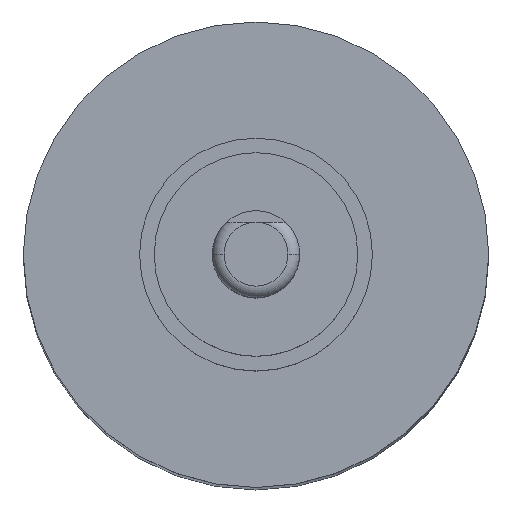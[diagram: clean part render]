
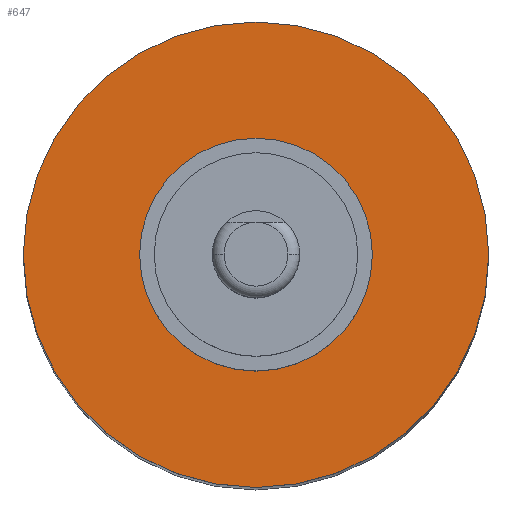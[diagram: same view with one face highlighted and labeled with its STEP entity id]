
A CAD part, top view. The second image highlights one B-rep face of the part: STEP entity #647.
In plain terms, the highlighted planar face has unit normal (0, 0, 1).
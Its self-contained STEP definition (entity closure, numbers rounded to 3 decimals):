
#33 = EDGE_LOOP ( 'NONE', ( #250, #596 ) ) ;
#105 = DIRECTION ( 'NONE',  ( 0., 0., 1. ) ) ;
#170 = DIRECTION ( 'NONE',  ( 0., -1., 0. ) ) ;
#188 = CARTESIAN_POINT ( 'NONE',  ( 0., 4., -6. ) ) ;
#215 = VERTEX_POINT ( 'NONE', #188 ) ;
#241 = DIRECTION ( 'NONE',  ( 0., -1., 0. ) ) ;
#250 = ORIENTED_EDGE ( 'NONE', *, *, #291, .T. ) ;
#291 = EDGE_CURVE ( 'NONE', #570, #215, #371, .T. ) ;
#368 = CIRCLE ( 'NONE', #618, 4. ) ;
#371 = CIRCLE ( 'NONE', #783, 4. ) ;
#391 = DIRECTION ( 'NONE',  ( 0., 0., 1. ) ) ;
#413 = DIRECTION ( 'NONE',  ( 0., -1., 0. ) ) ;
#458 = AXIS2_PLACEMENT_3D ( 'NONE', #854, #391, #241 ) ;
#460 = FACE_OUTER_BOUND ( 'NONE', #33, .T. ) ;
#531 = CARTESIAN_POINT ( 'NONE',  ( 0., -4., -6. ) ) ;
#552 = PLANE ( 'NONE',  #458 ) ;
#564 = CARTESIAN_POINT ( 'NONE',  ( 0., 0., -6. ) ) ;
#570 = VERTEX_POINT ( 'NONE', #531 ) ;
#596 = ORIENTED_EDGE ( 'NONE', *, *, #670, .T. ) ;
#618 = AXIS2_PLACEMENT_3D ( 'NONE', #704, #930, #170 ) ;
#647 = ADVANCED_FACE ( 'NONE', ( #460 ), #552, .T. ) ;
#670 = EDGE_CURVE ( 'NONE', #215, #570, #368, .T. ) ;
#704 = CARTESIAN_POINT ( 'NONE',  ( 0., 0., -6. ) ) ;
#783 = AXIS2_PLACEMENT_3D ( 'NONE', #564, #105, #413 ) ;
#854 = CARTESIAN_POINT ( 'NONE',  ( 0., 0., -6. ) ) ;
#930 = DIRECTION ( 'NONE',  ( 0., 0., 1. ) ) ;
